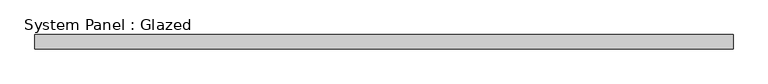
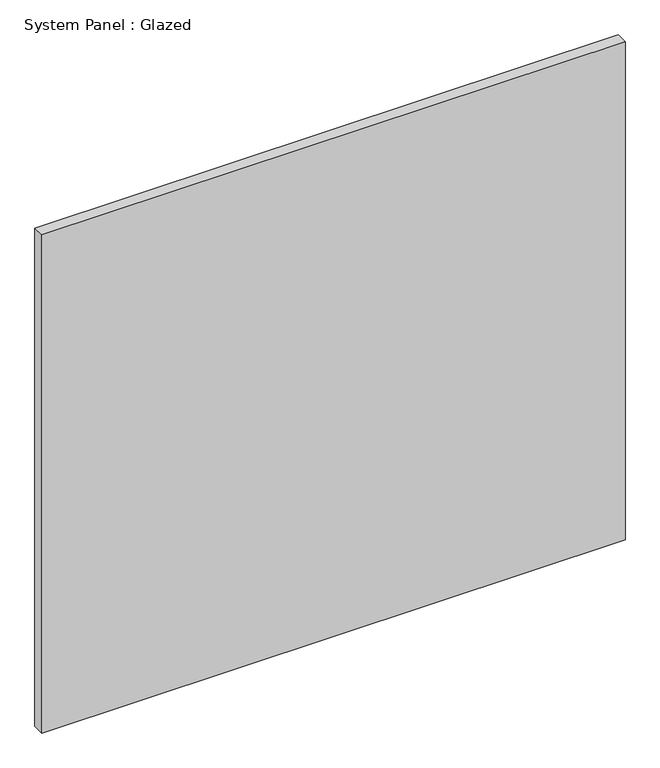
"""IFC4 building model written with IfcOpenShell, lengths in millimetres: plate geometry, System Panel : Glazed."""

import ifcopenshell
import ifcopenshell.guid

model = None  # the IFC model being written
_history = None  # IfcOwnerHistory: only IFC2X3 demands one
_inside = {}  # id of a spatial element -> (the spatial element, [elements in it])
_under = {}  # id of a project, library or spatial element -> (it, [spatial elements below it])
_declared = {}  # id of a project -> (the project, [libraries it declares])
_typed = {}  # id of a type object -> (the type object, [elements of that type])
_made_of = {}  # id of a material, layer set ... -> (it, [elements and type objects made of it])


def new_model(schema):
    """Start an empty IFC model of exactly this schema.

    Asked for "IFC4X3", IfcOpenShell would pick the latest addendum, in which some entities
    have other attributes; the version numbers below select the first issue.
    IFC2X3 requires an IfcOwnerHistory on every rooted entity: one is made here for all.
    """
    global model, _history
    if schema == "IFC4X3":
        model = ifcopenshell.file(schema_version=(4, 3, 0, 0))
    else:
        model = ifcopenshell.file(schema=schema)
    _inside.clear()
    _under.clear()
    _declared.clear()
    _typed.clear()
    _made_of.clear()
    _history = None
    if model.schema == "IFC2X3":
        org = make("IfcOrganization", Name="unknown")
        user = make(
            "IfcPersonAndOrganization",
            ThePerson=make("IfcPerson", FamilyName="unknown"),
            TheOrganization=org,
        )
        app = make(
            "IfcApplication",
            ApplicationDeveloper=org,
            Version="unknown",
            ApplicationFullName="unknown",
            ApplicationIdentifier="unknown",
        )
        _history = make(
            "IfcOwnerHistory",
            OwningUser=user,
            OwningApplication=app,
            ChangeAction="ADDED",
            CreationDate=0,
        )
    return model


def make(cls, **values):
    """One entity of the class cls with the attributes given. An attribute that is None is left unset."""
    return model.create_entity(
        cls, **{name: value for name, value in values.items() if value is not None}
    )


def rooted(cls, **values):
    """An entity with a GlobalId (a new one), such as an element, a storey or a relation."""
    return make(cls, GlobalId=ifcopenshell.guid.new(), OwnerHistory=_history, **values)


def si_unit(unit_type, name, prefix=None):
    """IfcSIUnit, for example si_unit("LENGTHUNIT", "METRE", prefix="MILLI")."""
    return make("IfcSIUnit", UnitType=unit_type, Prefix=prefix, Name=name)


def assignment(units):
    """IfcUnitAssignment: the units of a project."""
    return None if units is None else make("IfcUnitAssignment", Units=units)


def point(xyz):
    """IfcCartesianPoint."""
    return None if xyz is None else make("IfcCartesianPoint", Coordinates=xyz)


def direction(xyz):
    """IfcDirection."""
    return None if xyz is None else make("IfcDirection", DirectionRatios=xyz)


def frame(location, z_axis=None, x_axis=None):
    """IfcAxis2Placement3D, a coordinate frame: its origin and axes. An axis left out is left unset."""
    return make(
        "IfcAxis2Placement3D",
        Location=point(location),
        Axis=direction(z_axis),
        RefDirection=direction(x_axis),
    )


def origin():
    """The frame at (0, 0, 0) with its axes left unset."""
    return frame((0.0, 0.0, 0.0))


def origin_with_axes():
    """The frame at (0, 0, 0) with the z axis (0, 0, 1) and the x axis (1, 0, 0) written out."""
    return frame((0.0, 0.0, 0.0), z_axis=(0.0, 0.0, 1.0), x_axis=(1.0, 0.0, 0.0))


def place(relative_to, where):
    """IfcLocalPlacement: puts the frame where relative to a parent placement (None: the world)."""
    return make(
        "IfcLocalPlacement", PlacementRelTo=relative_to, RelativePlacement=where
    )


def context(
    kind, dimensions, precision=None, world=None, true_north=None, identifier=None
):
    """IfcGeometricRepresentationContext, for example the 3D "Model" context."""
    return make(
        "IfcGeometricRepresentationContext",
        ContextIdentifier=identifier,
        ContextType=kind,
        CoordinateSpaceDimension=dimensions,
        Precision=precision,
        WorldCoordinateSystem=world,
        TrueNorth=true_north,
    )


def project(units=None, contexts=None):
    """IfcProject with its units and contexts."""
    return rooted(
        "IfcProject",
        Name="project",
        RepresentationContexts=contexts,
        UnitsInContext=assignment(units),
    )


def spatial(cls, under=None, at=None, **own):
    """A site, building, storey or space (cls), placed at a placement, below another one or the project."""
    s = rooted(cls, ObjectPlacement=at, **own)
    if under is not None:
        _under.setdefault(under.id(), (under, []))[1].append(s)
    return s


def polyline(points):
    """IfcPolyline through the points."""
    return make("IfcPolyline", Points=[point(p) for p in points])


def outline(outer, holes=None, kind="AREA"):
    """IfcArbitraryClosedProfileDef: a profile drawn as a closed curve; with holes, ...WithVoids."""
    if holes is None:
        return make("IfcArbitraryClosedProfileDef", ProfileType=kind, OuterCurve=outer)
    return make(
        "IfcArbitraryProfileDefWithVoids",
        ProfileType=kind,
        OuterCurve=outer,
        InnerCurves=holes,
    )


def extrude(swept, where, along, depth):
    """IfcExtrudedAreaSolid: the profile swept, set in the frame where, extruded along a direction by depth."""
    return make(
        "IfcExtrudedAreaSolid",
        SweptArea=swept,
        Position=where,
        ExtrudedDirection=direction(along),
        Depth=depth,
    )


def shape(context_of_items, identifier, shape_type, items):
    """IfcShapeRepresentation: the items that make up one representation, for example the "Body"."""
    return make(
        "IfcShapeRepresentation",
        ContextOfItems=context_of_items,
        RepresentationIdentifier=identifier,
        RepresentationType=shape_type,
        Items=items,
    )


def source(mapping_origin, context_of_items, identifier, shape_type, items):
    """IfcRepresentationMap: a shape defined once, which mapped items show again and again."""
    return make(
        "IfcRepresentationMap",
        MappingOrigin=mapping_origin,
        MappedRepresentation=shape(context_of_items, identifier, shape_type, items),
    )


def transform(
    local_origin,
    x_axis=None,
    y_axis=None,
    z_axis=None,
    scale=None,
    scale2=None,
    scale3=None,
    uniform=True,
):
    """IfcCartesianTransformationOperator3D, or its non-uniform kind. x_axis, y_axis, z_axis: its Axis1, 2, 3."""
    if uniform:
        return make(
            "IfcCartesianTransformationOperator3D",
            Axis1=direction(x_axis),
            Axis2=direction(y_axis),
            LocalOrigin=point(local_origin),
            Scale=scale,
            Axis3=direction(z_axis),
        )
    return make(
        "IfcCartesianTransformationOperator3DnonUniform",
        Axis1=direction(x_axis),
        Axis2=direction(y_axis),
        LocalOrigin=point(local_origin),
        Scale=scale,
        Axis3=direction(z_axis),
        Scale2=scale2,
        Scale3=scale3,
    )


def mapped(mapping_source, mapping_target):
    """IfcMappedItem: shows the shape of a source again, moved by a transform."""
    return make(
        "IfcMappedItem", MappingSource=mapping_source, MappingTarget=mapping_target
    )


def made_of(thing, what):
    """Note that an element or type object is made of a material, layer set ...; save() writes the relation."""
    if what is not None:
        _made_of.setdefault(what.id(), (what, []))[1].append(thing)
    return thing


def element(
    cls,
    number,
    at=None,
    inside=None,
    cuts=None,
    type_object=None,
    material=None,
    context=None,
    identifier="Body",
    shape_type=None,
    held_by="IfcProductDefinitionShape",
    body=None,
    shapes=None,
    **own,
):
    """One element of the class cls, such as IfcWall. Its Tag is "e" and its number.

    at: its placement. inside: the storey or other place that contains it. cuts: it is an
    opening in that element (IfcRelVoidsElement). A single representation is given by context,
    identifier, shape_type and body (its items); several are given by shapes. held_by: the class
    of the entity that holds the representations. save() writes the other relations.
    """
    e = rooted(cls, Tag="e%d" % number, ObjectPlacement=at, **own)
    if body is not None:
        shapes = [shape(context, identifier, shape_type, body)]
    if shapes is not None:
        e.Representation = make(held_by, Representations=shapes)
    if inside is not None:
        _inside.setdefault(inside.id(), (inside, []))[1].append(e)
    if cuts is not None:
        rooted(
            "IfcRelVoidsElement", RelatingBuildingElement=cuts, RelatedOpeningElement=e
        )
    if type_object is not None:
        _typed.setdefault(type_object.id(), (type_object, []))[1].append(e)
    return made_of(e, material)


def aggregate(whole, parts):
    """IfcRelAggregates: a whole, such as a stair, and the parts it consists of."""
    return rooted("IfcRelAggregates", RelatingObject=whole, RelatedObjects=parts)


def save(model, path):
    """Write the relations noted so far, then the file.

    IfcRelAggregates (storeys below a building ...), IfcRelContainedInSpatialStructure (elements
    in a storey), IfcRelDefinesByType, IfcRelAssociatesMaterial and IfcRelDeclares: one each for
    every whole, place, type object, material and project.
    """
    for whole, parts in _under.values():
        aggregate(whole, parts)
    for where, things in _inside.values():
        rooted(
            "IfcRelContainedInSpatialStructure",
            RelatedElements=things,
            RelatingStructure=where,
        )
    for kind, things in _typed.values():
        rooted("IfcRelDefinesByType", RelatedObjects=things, RelatingType=kind)
    for what, things in _made_of.values():
        rooted("IfcRelAssociatesMaterial", RelatedObjects=things, RelatingMaterial=what)
    for by, libraries in _declared.values():
        rooted("IfcRelDeclares", RelatingContext=by, RelatedDefinitions=libraries)
    model.write(path)


def system_panel_glazed_652821f2(model_context):
    return source(origin(), model_context, "Body", "SweptSolid", [
        extrude(outline(polyline([(622.3, 19.05), (-622.3, 19.05), (-622.3, 44.45), (622.3, 44.45), (622.3, 19.05)])), origin_with_axes(), (0.0, 0.0, 1.0), 1123.95),
    ])


if __name__ == "__main__":
    model = new_model("IFC4")
    model_context = context("Model", 3, world=origin())
    ifc_project = project(units=[si_unit("LENGTHUNIT", "METRE", prefix="MILLI")], contexts=[model_context])
    site = spatial("IfcSite", under=ifc_project)
    building = spatial("IfcBuilding", under=site)
    placement = place(None, origin())
    system_panel_glazed_shape = system_panel_glazed_652821f2(model_context)
    element("IfcPlate", 1, ObjectType="System Panel : Glazed", at=placement, inside=building, context=model_context, shape_type="MappedRepresentation", body=[
        mapped(system_panel_glazed_shape, transform((0.0, 0.0, 0.0), x_axis=(1.0, 0.0, 0.0), y_axis=(0.0, 1.0, 0.0), z_axis=(0.0, 0.0, 1.0))),
    ])
    save(model, "model.ifc")
